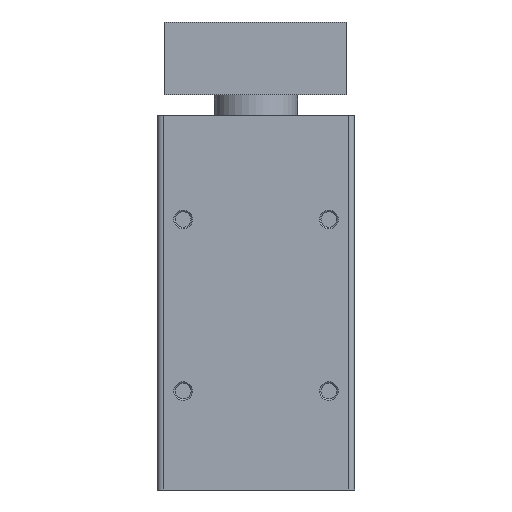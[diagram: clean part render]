
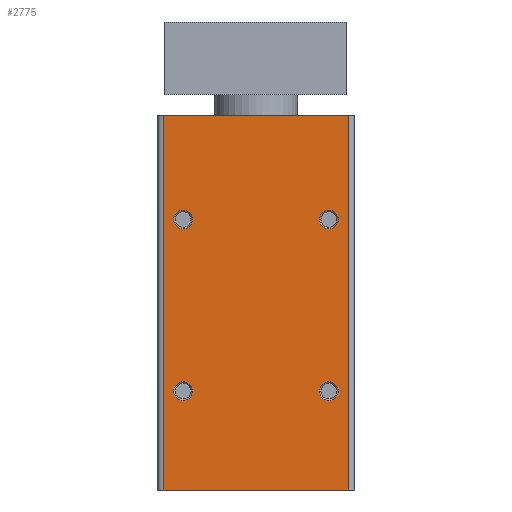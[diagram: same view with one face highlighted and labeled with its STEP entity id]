
A CAD part, front view. The second image highlights one B-rep face of the part: STEP entity #2775.
In plain terms, the highlighted planar face has unit normal (0, -1, 0).
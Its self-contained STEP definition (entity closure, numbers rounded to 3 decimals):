
#1637=CARTESIAN_POINT('',(17.8,-46.,-76.0));
#1638=VERTEX_POINT('',#1637);
#1646=CARTESIAN_POINT('',(-17.8,-46.,-76.0));
#1647=VERTEX_POINT('',#1646);
#1648=CARTESIAN_POINT('',(-17.8,-46.,-76.0));
#1649=DIRECTION('',(1.0,0.0,0.0));
#1650=VECTOR('',#1649,35.6);
#1651=LINE('',#1648,#1650);
#1652=EDGE_CURVE('',#1647,#1638,#1651,.T.);
#2049=CARTESIAN_POINT('',(-17.8,-46.,-4.));
#2050=VERTEX_POINT('',#2049);
#2058=CARTESIAN_POINT('',(17.8,-46.,-4.));
#2059=VERTEX_POINT('',#2058);
#2060=CARTESIAN_POINT('',(17.8,-46.,-4.));
#2061=DIRECTION('',(-1.0,0.0,0.0));
#2062=VECTOR('',#2061,35.6);
#2063=LINE('',#2060,#2062);
#2064=EDGE_CURVE('',#2059,#2050,#2063,.T.);
#2706=CARTESIAN_POINT('',(-12.2,-46.,-24.));
#2707=VERTEX_POINT('',#2706);
#2708=CARTESIAN_POINT('',(-14.,-46.,-24.));
#2709=DIRECTION('',(0.0,-1.0,0.0));
#2710=DIRECTION('',(-1.0,0.0,0.0));
#2711=AXIS2_PLACEMENT_3D('',#2708,#2709,#2710);
#2712=CIRCLE('',#2711,1.8);
#2713=EDGE_CURVE('',#2707,#2707,#2712,.T.);
#2718=CARTESIAN_POINT('',(-17.8,-46.,-4.));
#2719=DIRECTION('',(0.0,-1.0,0.0));
#2720=DIRECTION('',(0.0,0.0,-1.0));
#2721=AXIS2_PLACEMENT_3D('',#2718,#2719,#2720);
#2722=PLANE('',#2721);
#2723=ORIENTED_EDGE('',*,*,#1652,.T.);
#2724=CARTESIAN_POINT('',(17.8,-46.,-4.));
#2725=DIRECTION('',(0.0,0.0,-1.0));
#2726=VECTOR('',#2725,72.0);
#2727=LINE('',#2724,#2726);
#2728=EDGE_CURVE('',#2059,#1638,#2727,.T.);
#2729=ORIENTED_EDGE('',*,*,#2728,.F.);
#2730=ORIENTED_EDGE('',*,*,#2064,.T.);
#2731=CARTESIAN_POINT('',(-17.8,-46.,-4.));
#2732=DIRECTION('',(0.0,0.0,-1.0));
#2733=VECTOR('',#2732,72.0);
#2734=LINE('',#2731,#2733);
#2735=EDGE_CURVE('',#2050,#1647,#2734,.T.);
#2736=ORIENTED_EDGE('',*,*,#2735,.T.);
#2737=EDGE_LOOP('',(#2723,#2729,#2730,#2736));
#2738=FACE_OUTER_BOUND('',#2737,.T.);
#2739=CARTESIAN_POINT('',(-12.2,-46.,-57.));
#2740=VERTEX_POINT('',#2739);
#2741=CARTESIAN_POINT('',(-14.,-46.,-57.));
#2742=DIRECTION('',(0.0,-1.0,0.0));
#2743=DIRECTION('',(-1.0,0.0,0.0));
#2744=AXIS2_PLACEMENT_3D('',#2741,#2742,#2743);
#2745=CIRCLE('',#2744,1.8);
#2746=EDGE_CURVE('',#2740,#2740,#2745,.T.);
#2747=ORIENTED_EDGE('',*,*,#2746,.F.);
#2748=EDGE_LOOP('',(#2747));
#2749=FACE_BOUND('',#2748,.T.);
#2750=CARTESIAN_POINT('',(15.8,-46.,-24.));
#2751=VERTEX_POINT('',#2750);
#2752=CARTESIAN_POINT('',(14.,-46.,-24.));
#2753=DIRECTION('',(0.0,-1.0,0.0));
#2754=DIRECTION('',(-1.0,0.0,0.0));
#2755=AXIS2_PLACEMENT_3D('',#2752,#2753,#2754);
#2756=CIRCLE('',#2755,1.8);
#2757=EDGE_CURVE('',#2751,#2751,#2756,.T.);
#2758=ORIENTED_EDGE('',*,*,#2757,.F.);
#2759=EDGE_LOOP('',(#2758));
#2760=FACE_BOUND('',#2759,.T.);
#2761=CARTESIAN_POINT('',(15.8,-46.,-57.));
#2762=VERTEX_POINT('',#2761);
#2763=CARTESIAN_POINT('',(14.,-46.,-57.));
#2764=DIRECTION('',(0.0,-1.0,0.0));
#2765=DIRECTION('',(-1.0,0.0,0.0));
#2766=AXIS2_PLACEMENT_3D('',#2763,#2764,#2765);
#2767=CIRCLE('',#2766,1.8);
#2768=EDGE_CURVE('',#2762,#2762,#2767,.T.);
#2769=ORIENTED_EDGE('',*,*,#2768,.F.);
#2770=EDGE_LOOP('',(#2769));
#2771=FACE_BOUND('',#2770,.T.);
#2772=ORIENTED_EDGE('',*,*,#2713,.F.);
#2773=EDGE_LOOP('',(#2772));
#2774=FACE_BOUND('',#2773,.T.);
#2775=ADVANCED_FACE('',(#2738,#2749,#2760,#2771,#2774),#2722,.T.);
